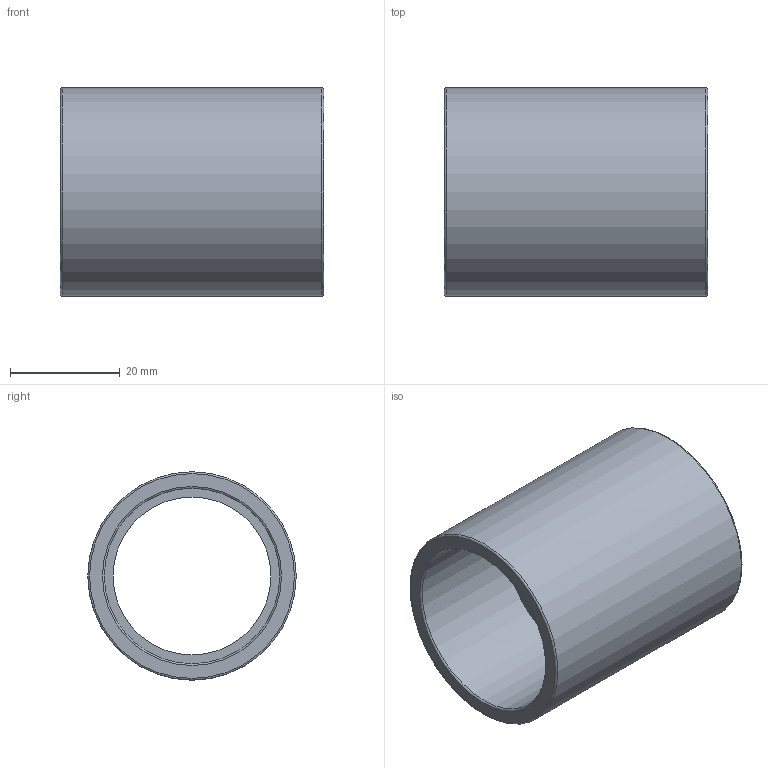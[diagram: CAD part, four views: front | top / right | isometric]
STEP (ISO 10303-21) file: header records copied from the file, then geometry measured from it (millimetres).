
FILE_DESCRIPTION(/* description */ ('PLASSON SOCKET PVC 32 - CEMENT'),/* implementation_level */ '2;1');
FILE_NAME(/* name */ 'C:\Dropbox\KIMPROJECTS-Inventor\99-16-3568-Processing\PVC Catalog 2017\050100\050100032.ipt.stp',/* time_stamp */ '2017-12-07T15:51:22+02:00',/* author */ ('KIM'),/* organization */ (''),/* preprocessor_version */ 'ST-DEVELOPER v15.6',/* originating_system */ 'Autodesk Inventor 2015',/* authorisation */ '');
FILE_SCHEMA (('AUTOMOTIVE_DESIGN { 1 0 10303 214 3 1 1 }'));
Length unit declared in the file: millimetre
Products named in the file (1): 050100032
Bounding box: 48 x 38 x 38 mm (x, y, z)
Volume: 16435.2 mm3; surface area: 11420.5 mm2
Topology: 1 solids, 1 shells, 12 faces, 20 edges, 12 vertices
Faces by surface type: torus 4, plane 4, cylinder 4
Full cylindrical faces by diameter (mm): 28.8 x1, 32 x2, 38 x1
Entity records: 272 total; most frequent: DIRECTION 50, CARTESIAN_POINT 37, AXIS2_PLACEMENT_3D 25, EDGE_LOOP 24, ORIENTED_EDGE 24, FACE_BOUND 12, FACE_OUTER_BOUND 12, CIRCLE 12
